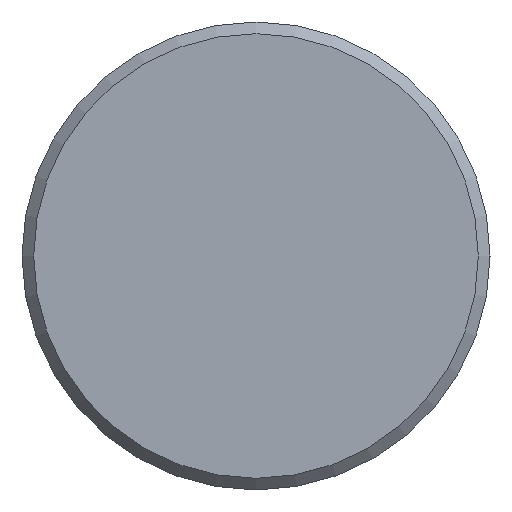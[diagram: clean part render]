
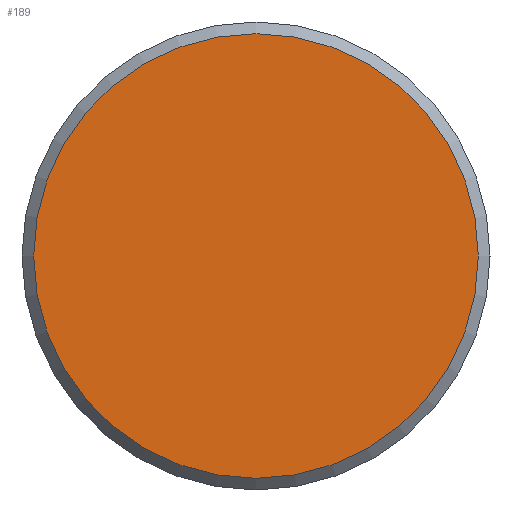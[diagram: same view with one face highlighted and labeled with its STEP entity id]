
A CAD part, left-side view. The second image highlights one B-rep face of the part: STEP entity #189.
In plain terms, the highlighted planar face has unit normal (-1, 0, 0).
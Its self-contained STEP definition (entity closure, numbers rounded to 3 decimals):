
#29=PLANE('',#239);
#41=FACE_OUTER_BOUND('',#58,.T.);
#58=EDGE_LOOP('',(#166));
#90=CIRCLE('',#240,19.);
#104=VERTEX_POINT('',#356);
#125=EDGE_CURVE('',#104,#104,#90,.T.);
#166=ORIENTED_EDGE('',*,*,#125,.F.);
#189=ADVANCED_FACE('',(#41),#29,.T.);
#239=AXIS2_PLACEMENT_3D('',#355,#300,#301);
#240=AXIS2_PLACEMENT_3D('',#357,#302,#303);
#300=DIRECTION('center_axis',(-1.,0.,0.));
#301=DIRECTION('ref_axis',(0.,0.,1.));
#302=DIRECTION('center_axis',(1.,0.,0.));
#303=DIRECTION('ref_axis',(0.,0.,-1.));
#355=CARTESIAN_POINT('Origin',(0.,19.,0.));
#356=CARTESIAN_POINT('',(0.,-19.,0.));
#357=CARTESIAN_POINT('Origin',(0.,0.,
0.));
